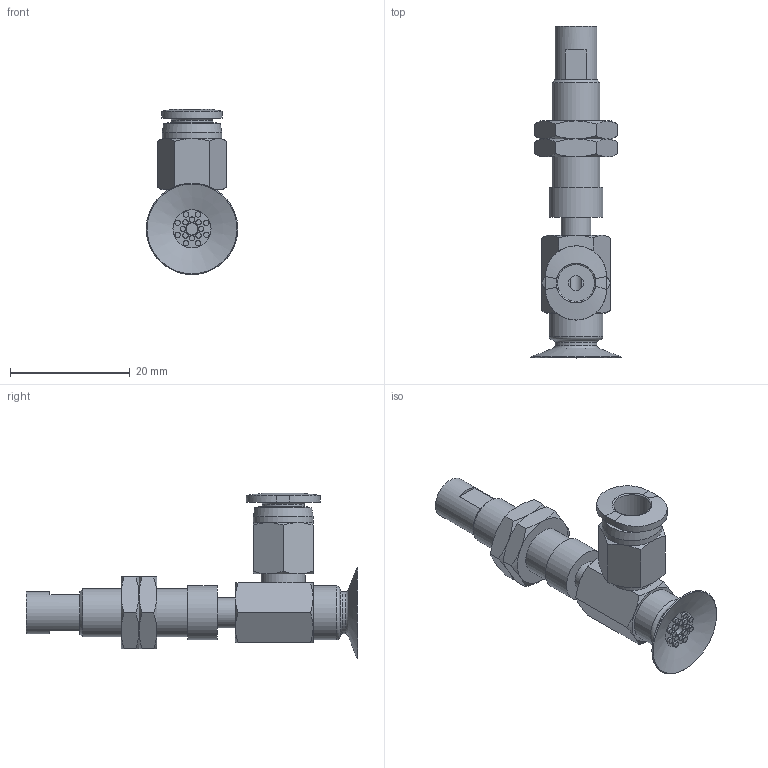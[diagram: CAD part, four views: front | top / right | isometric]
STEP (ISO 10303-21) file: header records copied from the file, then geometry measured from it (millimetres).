
FILE_DESCRIPTION(('STEP AP203'),'1');
FILE_NAME('-O.stp','2025-02-11T08:02:37',(' '),(' '),'Spatial InterOp 3D',' ',' ');
FILE_SCHEMA(('CONFIG_CONTROL_DESIGN'));
Length unit declared in the file: millimetre
Products named in the file (7): BNABPAYS-15A-3-※-O; NAPAYS-10A-3--M; NAPAYS-10A-3--F; Nut-10A-S; CONNECTOR-10A-3-PA; BPAG-15A-※_3D; PC-C_06-M5
Assembly tree (7 placements, depth 2):
  BNABPAYS-15A-3-※-O
    NAPAYS-10A-3--M
    NAPAYS-10A-3--F
    Nut-10A-S  x2
    CONNECTOR-10A-3-PA
    BPAG-15A-※_3D
    PC-C_06-M5
Bounding box: 15.3 x 55.5 x 27.63 mm (x, y, z)
Volume: 3409.2 mm3; surface area: 5356.2 mm2
Topology: 6 solids, 9 shells, 211 faces, 419 edges, 256 vertices
Faces by surface type: plane 84, cone 66, cylinder 43, torus 11, bspline 4, revolution 3
Full cylindrical faces by diameter (mm): 0.9 x16, 2 x2, 4 x4, 4.134 x2, 5 x4, 6 x2, 7 x3, 7.188 x2, 7.4 x1, 8 x1, 8.2 x1, 9 x2, 10 x1
Entity records: 5240 total; most frequent: CARTESIAN_POINT 1405, DIRECTION 741, ORIENTED_EDGE 584, AXIS2_PLACEMENT_3D 340, EDGE_LOOP 298, EDGE_CURVE 294, VERTEX_POINT 218, FACE_OUTER_BOUND 179
